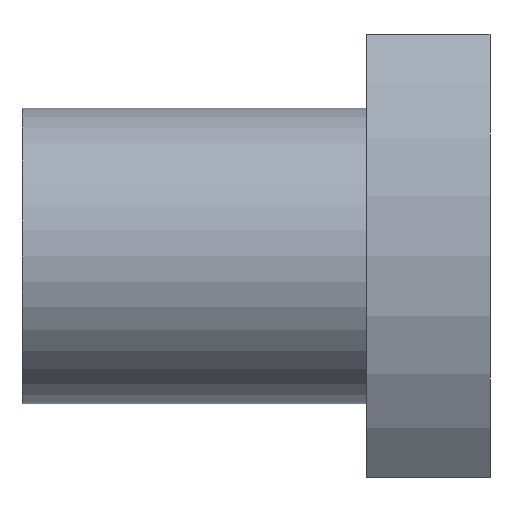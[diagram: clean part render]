
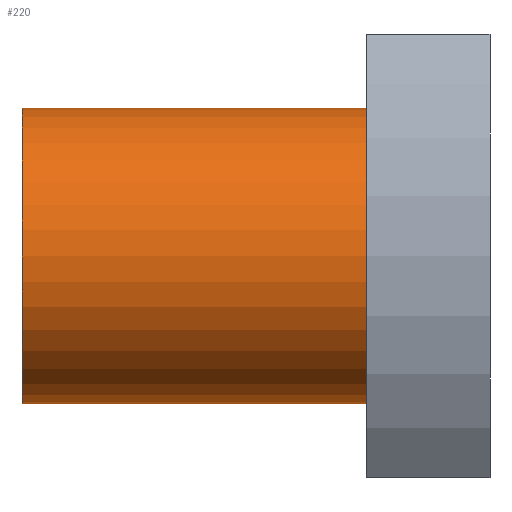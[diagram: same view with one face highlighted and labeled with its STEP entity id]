
A CAD part, front view. The second image highlights one B-rep face of the part: STEP entity #220.
In plain terms, the highlighted cylindrical face has radius 6 mm (diameter 12 mm), a full revolution.
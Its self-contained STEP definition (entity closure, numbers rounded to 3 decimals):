
#47=ORIENTED_EDGE('',*,*,#95,.T.);
#48=ORIENTED_EDGE('',*,*,#96,.T.);
#95=EDGE_CURVE('',#119,#119,#137,.T.);
#96=EDGE_CURVE('',#120,#120,#138,.F.);
#119=VERTEX_POINT('',#362);
#120=VERTEX_POINT('',#364);
#137=CIRCLE('',#251,6.);
#138=CIRCLE('',#252,6.);
#152=EDGE_LOOP('',(#47));
#153=EDGE_LOOP('',(#48));
#182=FACE_BOUND('',#152,.T.);
#183=FACE_BOUND('',#153,.T.);
#212=CYLINDRICAL_SURFACE('',#250,6.);
#220=ADVANCED_FACE('',(#182,#183),#212,.T.);
#250=AXIS2_PLACEMENT_3D('',#360,#288,#289);
#251=AXIS2_PLACEMENT_3D('',#361,#290,#291);
#252=AXIS2_PLACEMENT_3D('',#363,#292,#293);
#288=DIRECTION('',(1.,0.,0.));
#289=DIRECTION('',(0.,0.,-1.));
#290=DIRECTION('',(1.,0.,0.));
#291=DIRECTION('',(0.,0.,-1.));
#292=DIRECTION('',(1.,0.,0.));
#293=DIRECTION('',(0.,0.,-1.));
#360=CARTESIAN_POINT('',(-9.5,0.,0.));
#361=CARTESIAN_POINT('',(-9.5,0.,0.));
#362=CARTESIAN_POINT('',(-9.5,0.,-6.));
#363=CARTESIAN_POINT('',(4.5,0.,0.));
#364=CARTESIAN_POINT('',(4.5,0.,-6.));
